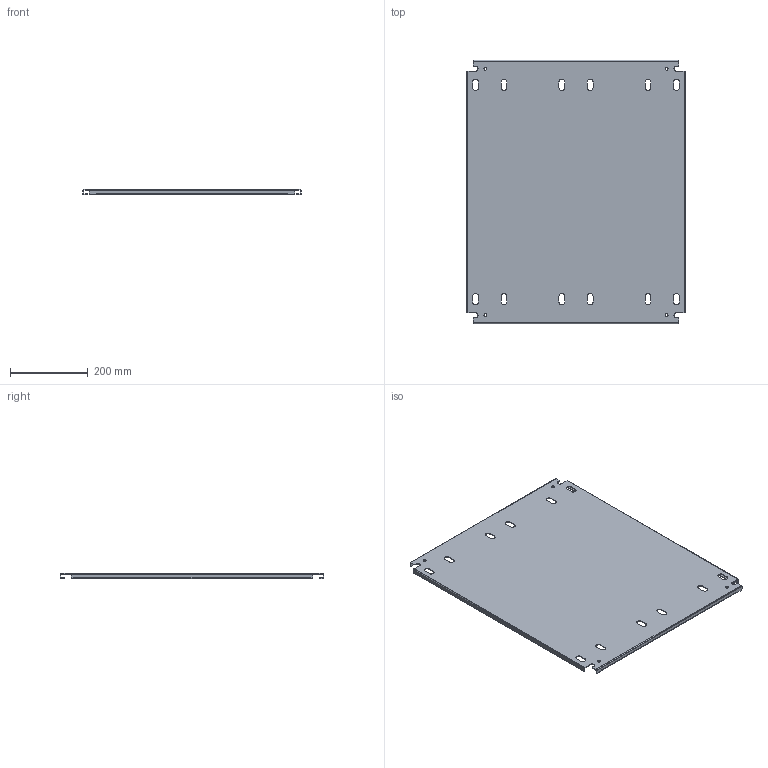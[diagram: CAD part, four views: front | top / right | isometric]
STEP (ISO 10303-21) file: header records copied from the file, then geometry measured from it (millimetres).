
FILE_DESCRIPTION(/* description */ ('1412BTSSCU 22.125" x 26.75" Left Inner Panel'),/* implementation_level */ '2;1');
FILE_NAME(/* name */ 'C:\Vault_Workspace\Inventor_Dwg\BoxCad\Result\1412BTSSCU112003DT\e-mail\3D\1412BTSSCU112003DTIP1.stp',/* time_stamp */ '2022-11-04T14:55:37-04:00',/* author */ ('BoxCad'),/* organization */ (''),/* preprocessor_version */ 'ST-DEVELOPER v18.1',/* originating_system */ 'Autodesk Inventor 2020',/* authorisation */ '');
FILE_SCHEMA (('AUTOMOTIVE_DESIGN { 1 0 10303 214 3 1 1 }'));
Length unit declared in the file: inch
Products named in the file (2): 1412BTSSCU112003DTIP1; 1412BTSSCU112003DTIP1-P
Assembly tree (1 placements, depth 2):
  1412BTSSCU112003DTIP1
    1412BTSSCU112003DTIP1-P
Bounding box: 561.98 x 679.45 x 13 mm (x, y, z)
Volume: 720173.5 mm3; surface area: 840360 mm2
Topology: 1 solids, 1 shells, 158 faces, 468 edges, 312 vertices
Faces by surface type: plane 90, cylinder 68
Full cylindrical faces by diameter (mm): 7.366 x4
Entity records: 5441 total; most frequent: CARTESIAN_POINT 941, ORIENTED_EDGE 936, DIRECTION 926, EDGE_CURVE 468, LINE 332, VECTOR 332, VERTEX_POINT 312, AXIS2_PLACEMENT_3D 297
